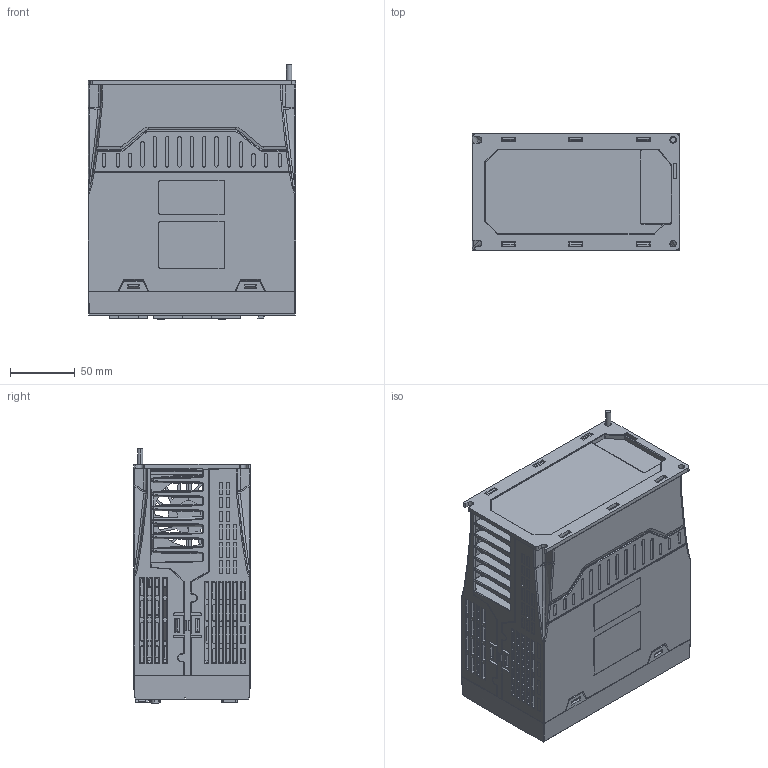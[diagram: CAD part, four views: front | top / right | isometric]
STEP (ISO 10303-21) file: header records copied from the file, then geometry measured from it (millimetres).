
FILE_DESCRIPTION((''),'2;1');
FILE_NAME('1-3000W-SF-ASM_ASM_ASM','2022-11-04T',('samkoon'),(''),'PRO/ENGINEER BY PARAMETRIC TECHNOLOGY CORPORATION, 2015240','PRO/ENGINEER BY PARAMETRIC TECHNOLOGY CORPORATION, 2015240','');
FILE_SCHEMA(('AUTOMOTIVE_DESIGN { 1 0 10303 214 1 1 1 1 }'));
Products named in the file (2): 1-3000W-SF-ASM_ASM_290_ASM; 1-3000W-SF-ASM_ASM_ASM
Assembly tree (1 placements, depth 2):
  1-3000W-SF-ASM_ASM_ASM
    1-3000W-SF-ASM_ASM_290_ASM
Bounding box: 160.3 x 90 x 196 mm (x, y, z)
Surface area: 729805.2 mm2 (no closed solid volume)
Topology: 0 solids, 31 shells, 5561 faces, 14683 edges, 9265 vertices
Faces by surface type: plane 3311, cylinder 1338, bspline 405, cone 202, torus 165, sphere 120, extrusion 20
Entity records: 206115 total; most frequent: CARTESIAN_POINT 59923, ORIENTED_EDGE 29116, DIRECTION 25531, EDGE_CURVE 14558, VECTOR 9857, LINE 9837, VERTEX_POINT 9265, AXIS2_PLACEMENT_3D 7837
